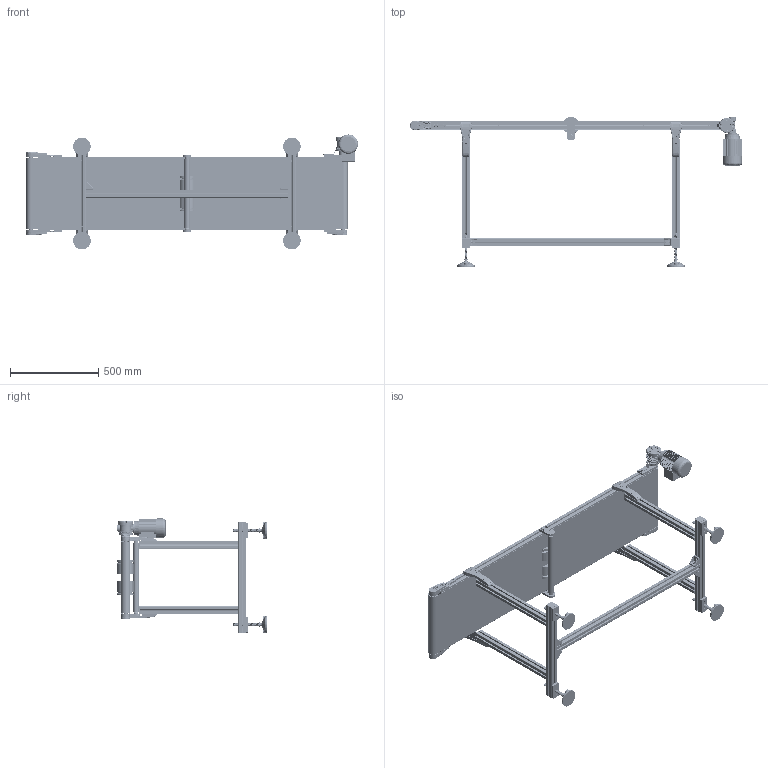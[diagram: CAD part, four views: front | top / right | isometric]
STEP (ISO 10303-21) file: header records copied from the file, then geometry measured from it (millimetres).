
FILE_DESCRIPTION (( 'STEP AP203' ), '1' );
FILE_NAME ('NASTRO_RETTILINEO_TAPPETO.step', '2026-05-06T10:04:15', ( 'Utente Windows' ), ( '' ), 'SwSTEP 2.0', 'SolidWorks 2024', '' );
FILE_SCHEMA (( 'CONFIG_CONTROL_DESIGN' ));
Length unit declared in the file: millimetre
Products named in the file (60): 084.301.000 VITI ALUSIC1_084.301.003; 084.802.061; 084.405.001; TRAVERSA_50_Default<A macchina>; 084.802.013-2; 084.807.013_084.807.003; 084.802.062; 084.802.028; 2010.000.068_L; BLOCCO_TRAINO_50_CORTA; CH03P_DX; VITE_DADO_M5X12; 084.302.000 DADI ALUSIC 13x13-1_084.302.009; 084.402.005; 084.808.012; DADO ESAGONALE M30 AUTOBLOCCANTE UNI 7473_M30 UNI 7473; TELAIO_50_CINGHIE_Default<A macchina>; RULLO_50_TRAINO_CINGHIE_30_DX; 084.803.018; 449.014.106; 084.303.001; ANGOLARE_43; 2010.000.070; BLOCCO_TRAINO_50_CORTA_30_DX; 084.807.004_084.807.004; BLOCCO_BRACCIO_CH03P_VF30P; BLOCCO_RINVIO_50_CORTA; VITI TCEI UNI 5931_M6x12 UNI 5931; 084.201.012; GAMBE_D50_Default<A macchina>; 084.201.012-1; VITE_RONDELLA_M8X20; RULLO_REGGITAPPETO; 084.802.065_Default<A macchina>; 2010.000.069; 084.305.003-1; 084.302.000 DADI ALUSIC 13x13_084.302.004; VITI TSEI UNI 5933_M5x12 UNI 5933; 084.802.014; VITI TSEI UNI 5933_M4x10 UNI 5933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
Assembly tree (151 placements, depth 4):
  NASTRO_RETTILINEO_TAPPETO
    TAPPETO_STANDARD_CINGHIE
    TELAIO_50_CINGHIE_Default<A macchina>
    LAMIERA_STANDARD
    RULLO_50_TRAINO_CINGHIE_30_DX
    BLOCCO_TRAINO_50_CORTA_30_DX
      084.807.013_084.807.003
      084.802.017_084.802.017
      084.301.000 VITI ALUSIC_084.301.003  x2
      084.302.000 DADI ALUSIC 13x13-1_084.302.004  x2
      BLOCCO_BRACCIO_CH03P_VF30P
        084.808.012
        084.802.062
        084.802.061
        VITI TE UNI 5739_M6x16 UNI 5739  x4
        084.803.018
        VITI TCEI UNI 5931_M6x12 UNI 5931  x4
      084.802.065_Default<A macchina>
      VITI TCEI UNI 5931_M4x25 UNI 5931  x2
    BLOCCO_TRAINO_50_CORTA
      084.807.004_084.807.004
      084.802.017_084.802.017
      084.301.000 VITI ALUSIC_084.301.003  x2
      084.302.000 DADI ALUSIC 13x13-1_084.302.004  x2
      VITI TSEI UNI 5933_M4x10 UNI 5933  x2
      084.802.071
    RULLO_50_RINVIO_CINGHIE
    BLOCCO_RINVIO_50_CORTA  x2
      084.807.004_084.807.004
      084.802.017_084.802.017
      084.802.008
      084.301.000 VITI ALUSIC_084.301.003
      084.302.000 DADI ALUSIC 13x13_084.302.004
      VITI TCEI UNI 5931_M4x10 UNI 5931
      084.802.071
    GUIDA_CINGHIA_Z_95  x2
      449.014.106
      DADO ESAGONALE M30 AUTOBLOCCANTE UNI 7473_M30 UNI 7473
    GAMBE_D50_Default<A macchina>  x2
    FLANGIA_GAMBA_50
      084.302.000 DADI ALUSIC 13x13-1_084.302.004  x4
      RONDELLE UNI 6592_8.4x17 UNI 6592  x3
      084.301.000 VITI ALUSIC_084.301.003  x4
      2010.000.068
        2010.000.068_L
        2010.000.069
        2010.000.070
    FLANGIA_GAMBA_50  x3
      084.302.000 DADI ALUSIC 13x13-1_084.302.004
      RONDELLE UNI 6592_8.4x17 UNI 6592
      084.301.000 VITI ALUSIC_084.301.003
      2010.000.068
        2010.000.068_L
        2010.000.069
        2010.000.070
    PIEDE  x4
      084.405.001
      084.402.005
      084.301.000 VITI ALUSIC1_084.301.003
      084.302.000 DADI ALUSIC 13x13-1_084.302.004
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Bounding box: 1882 x 851.29 x 651.94 mm (x, y, z)
Volume: 18185543.5 mm3; surface area: 11243927.3 mm2
Topology: 273 solids, 281 shells, 15014 faces, 39321 edges, 25100 vertices
Faces by surface type: plane 6516, cylinder 4423, bspline 1743, cone 1271, torus 943, sphere 118
Entity records: 237367 total; most frequent: CARTESIAN_POINT 82025, ORIENTED_EDGE 32244, DIRECTION 28909, EDGE_CURVE 16122, VERTEX_POINT 10376, AXIS2_PLACEMENT_3D 9999, LINE 8911, VECTOR 8911
